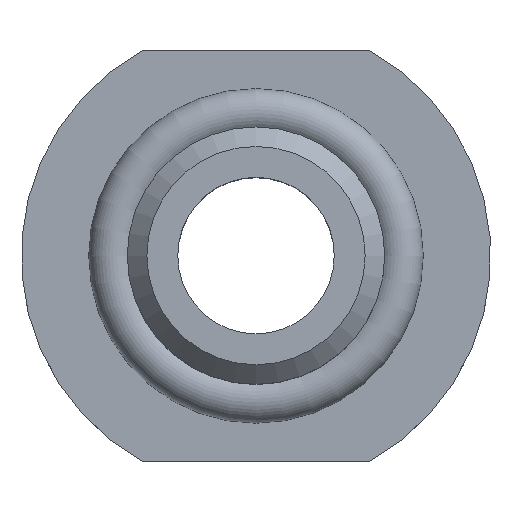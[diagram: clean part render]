
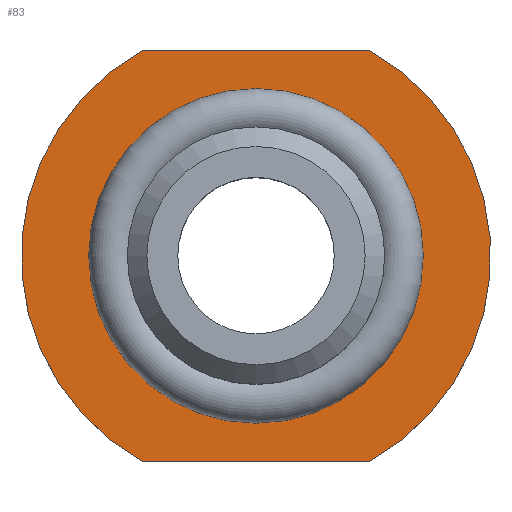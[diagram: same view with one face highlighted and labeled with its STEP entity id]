
A CAD part, top view. The second image highlights one B-rep face of the part: STEP entity #83.
In plain terms, the highlighted planar face has unit normal (0, 0, 1).
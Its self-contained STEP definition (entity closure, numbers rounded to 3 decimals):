
#83=ADVANCED_FACE('',(#166,#167),#168,.T.);
#166=FACE_BOUND('',#256,.T.);
#167=FACE_OUTER_BOUND('',#257,.T.);
#168=PLANE('',#258);
#256=EDGE_LOOP('',(#352));
#257=EDGE_LOOP('',(#353,#354,#355,#356));
#258=AXIS2_PLACEMENT_3D('',#357,#358,#359);
#352=ORIENTED_EDGE('',*,*,#466,.F.);
#353=ORIENTED_EDGE('',*,*,#463,.T.);
#354=ORIENTED_EDGE('',*,*,#467,.T.);
#355=ORIENTED_EDGE('',*,*,#468,.T.);
#356=ORIENTED_EDGE('',*,*,#469,.T.);
#357=CARTESIAN_POINT('',(0.0,0.0,-5.144));
#358=DIRECTION('',(0.0,0.0,1.0));
#359=DIRECTION('',(1.0,0.0,0.0));
#463=EDGE_CURVE('',#522,#520,#523,.T.);
#466=EDGE_CURVE('',#526,#526,#527,.T.);
#467=EDGE_CURVE('',#520,#528,#529,.T.);
#468=EDGE_CURVE('',#528,#530,#531,.T.);
#469=EDGE_CURVE('',#530,#522,#532,.T.);
#520=VERTEX_POINT('',#626);
#522=VERTEX_POINT('',#629);
#523=CIRCLE('',#630,12.0);
#526=VERTEX_POINT('',#634);
#527=CIRCLE('',#635,8.55);
#528=VERTEX_POINT('',#636);
#529=LINE('',#637,#638);
#530=VERTEX_POINT('',#639);
#531=CIRCLE('',#640,12.0);
#532=LINE('',#641,#642);
#626=CARTESIAN_POINT('',(5.809,10.5,-5.144));
#629=CARTESIAN_POINT('',(5.809,-10.5,-5.144));
#630=AXIS2_PLACEMENT_3D('',#701,#702,#703);
#634=CARTESIAN_POINT('',(8.55,0.,-5.144));
#635=AXIS2_PLACEMENT_3D('',#705,#706,#707);
#636=CARTESIAN_POINT('',(-5.809,10.5,-5.144));
#637=CARTESIAN_POINT('',(0.0,10.5,-5.144));
#638=VECTOR('',#708,1.0);
#639=CARTESIAN_POINT('',(-5.809,-10.5,-5.144));
#640=AXIS2_PLACEMENT_3D('',#709,#710,#711);
#641=CARTESIAN_POINT('',(0.0,-10.5,-5.144));
#642=VECTOR('',#712,1.0);
#701=CARTESIAN_POINT('',(0.0,0.0,-5.144));
#702=DIRECTION('',(0.0,0.0,1.0));
#703=DIRECTION('',(1.0,0.0,0.0));
#705=CARTESIAN_POINT('',(0.0,0.,-5.144));
#706=DIRECTION('',(0.0,0.0,1.0));
#707=DIRECTION('',(1.0,0.0,0.0));
#708=DIRECTION('',(-1.0,0.0,0.0));
#709=CARTESIAN_POINT('',(0.0,0.0,-5.144));
#710=DIRECTION('',(0.0,0.0,1.0));
#711=DIRECTION('',(1.0,0.0,0.0));
#712=DIRECTION('',(1.0,0.0,0.0));
